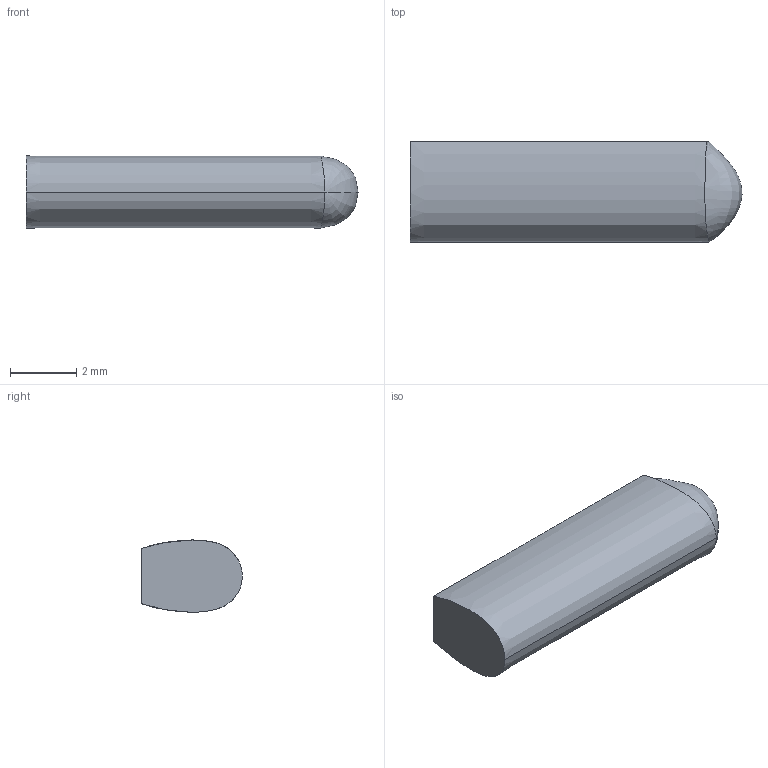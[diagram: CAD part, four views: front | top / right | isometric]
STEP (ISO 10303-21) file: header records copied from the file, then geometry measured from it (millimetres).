
FILE_DESCRIPTION((''),'1');
FILE_NAME('ELEK-ST10-10R','2001-03-30T',('rgoetz'),(''),'PRO/ENGINEER BY PARAMETRIC TECHNOLOGY CORPORATION, 2000350','PRO/ENGINEER BY PARAMETRIC TECHNOLOGY CORPORATION, 2000350','');
FILE_SCHEMA(('CONFIG_CONTROL_DESIGN'));
Length unit declared in the file: millimetre
Products named in the file (1): ELEK-ST10-10R
Bounding box: 10 x 3.03 x 2.17 mm (x, y, z)
Volume: 54.7 mm3; surface area: 94.9 mm2
Topology: 1 solids, 1 shells, 6 faces, 13 edges, 7 vertices
Faces by surface type: plane 2, extrusion 2, bspline 2
Entity records: 571 total; most frequent: CARTESIAN_POINT 430, ORIENTED_EDGE 22, EDGE_CURVE 11, DIRECTION 10, B_SPLINE_CURVE_WITH_KNOTS 9, VERTEX_POINT 7, VECTOR 6, EDGE_LOOP 6
